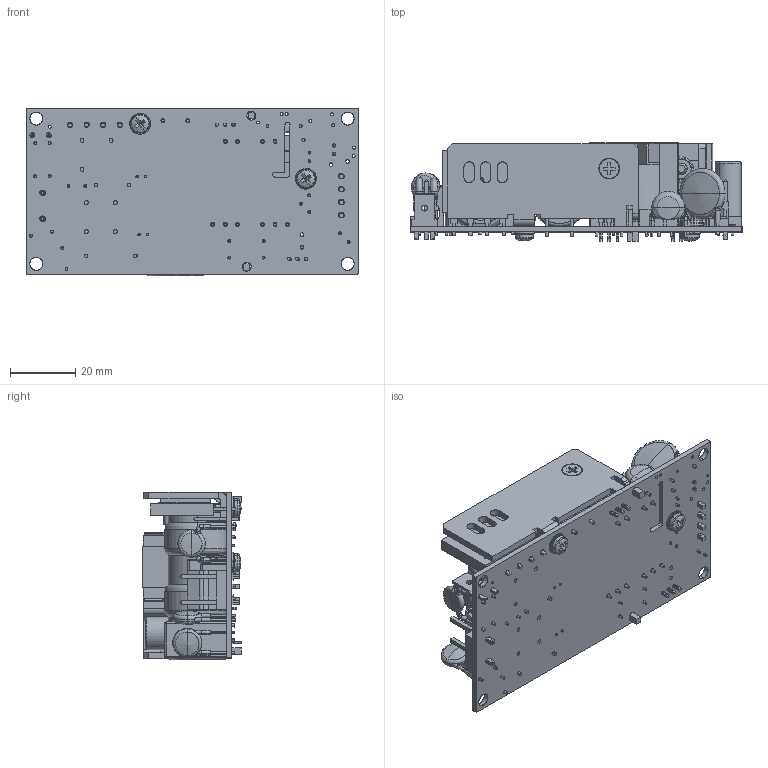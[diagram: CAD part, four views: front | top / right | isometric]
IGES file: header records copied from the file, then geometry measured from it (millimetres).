
Start section: SolidWorks IGES file using analytic representation for surfaces
Global section: file name: C:\Documents and Settings\behzar\Desktop\BEHZAR\PROJECTS\CURRENT-2010\SW-MODELS\CLC125US12-48.IGS; native system: SolidWorks 2010; preprocessor: SolidWorks 2010; author: BEHZAR; date: 100617.150246; units: millimetre
Bounding box: 101.6 x 30.21 x 51.32 mm (x, y, z)
Surface area: 42378.5 mm2 (no closed solid volume)
Topology: 0 solids, 0 shells, 1778 faces, 18189 edges, 18122 vertices
Faces by surface type: bspline 1076, revolution 702
